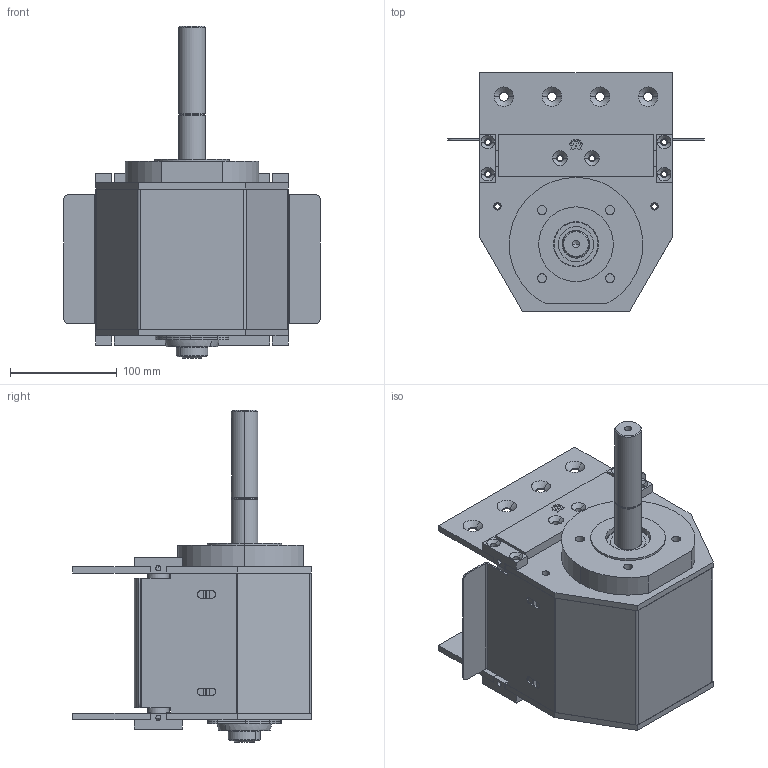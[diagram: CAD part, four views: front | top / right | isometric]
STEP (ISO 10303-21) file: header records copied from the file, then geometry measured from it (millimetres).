
FILE_DESCRIPTION (( 'STEP AP203' ), '1' );
FILE_NAME ('080.050.KCS.49.100.STEP', '2019-07-29T13:50:58', ( '' ), ( '' ), 'SwSTEP 2.0', 'SolidWorks 2018', '' );
FILE_SCHEMA (( 'CONFIG_CONTROL_DESIGN' ));
Length unit declared in the file: millimetre
Products named in the file (15): 080.050.KCS.49.100; 084.817.001_Default<A macchina>; 084.817.004; 084.817.003; 084.802.003-1; 084.802.012_Solo centrale; 084.802.004-1; 084.817.002; CUSCINETTI A SFERE_6004-2RS; 084.802.020; TRAVERSA PER CARTER^080.050.KCS.49.100_Default<A macchina>; 084.817.076; 084.802.011; 084.810.003; 084.802.021
Assembly tree (26 placements, depth 2):
  080.050.KCS.49.100
    084.817.001_Default<A macchina>
    084.817.002
    084.817.003  x2
    084.817.004  x2
    TRAVERSA PER CARTER^080.050.KCS.49.100_Default<A macchina>  x2
    084.802.012_Solo centrale  x2
    084.802.011
    084.817.076
    084.802.021
    084.810.003  x2
    084.802.004-1  x4
    084.802.020
    084.802.003-1  x2
    CUSCINETTI A SFERE_6004-2RS  x4
Bounding box: 240 x 223 x 310.5 mm (x, y, z)
Volume: 1645033.3 mm3; surface area: 770213.2 mm2
Topology: 28 solids, 28 shells, 1171 faces, 2993 edges, 1934 vertices
Faces by surface type: plane 547, cylinder 406, cone 128, torus 80, sphere 10
Entity records: 23662 total; most frequent: DIRECTION 3975, CARTESIAN_POINT 3821, ORIENTED_EDGE 3562, EDGE_CURVE 1781, AXIS2_PLACEMENT_3D 1471, VERTEX_POINT 1153, VECTOR 1033, LINE 1033
